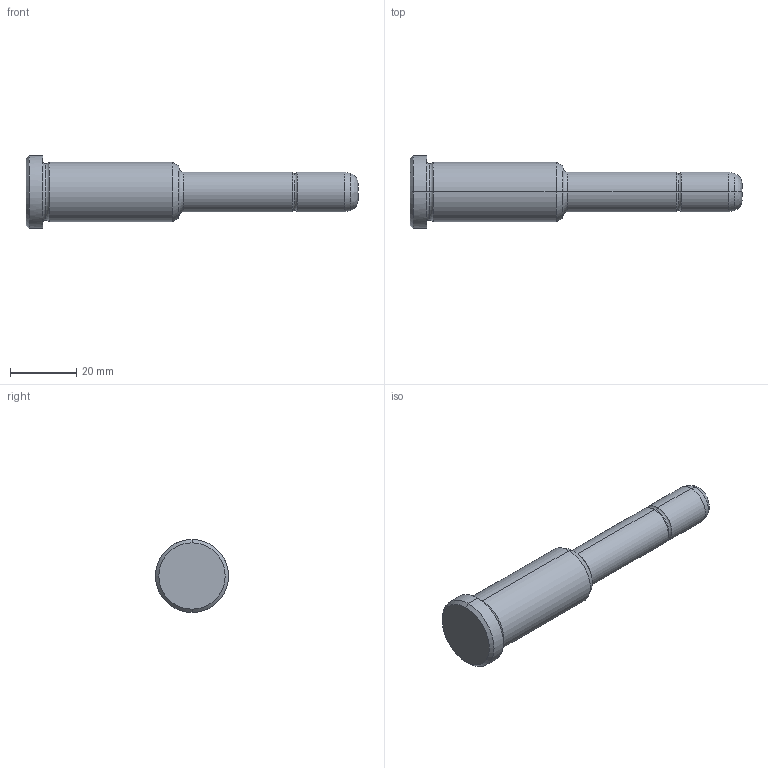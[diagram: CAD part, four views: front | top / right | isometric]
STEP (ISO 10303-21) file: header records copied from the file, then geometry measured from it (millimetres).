
FILE_DESCRIPTION(('CATIA V5 STEP Exchange'),'2;1');
FILE_NAME('C:\Users\Utente\Desktop\IO LAVORO\3D X SITO CF\X SITO\PLASTICA\351\351-12X46X100.stp','2021-08-17T13:18:25+00:00',('none'),('none'),'CATIA Version 5 Release 20 GA (IN-10)','CATIA V5 STEP AP203','none');
FILE_SCHEMA(('CONFIG_CONTROL_DESIGN'));
Length unit declared in the file: millimetre
Products named in the file (1): 351-12X46X100
Bounding box: 100 x 22 x 22 mm (x, y, z)
Volume: 18200 mm3; surface area: 5299.9 mm2
Topology: 1 solids, 1 shells, 30 faces, 86 edges, 60 vertices
Faces by surface type: torus 10, cylinder 8, cone 6, plane 4, bspline 2
Entity records: 1128 total; most frequent: CARTESIAN_POINT 343, ORIENTED_EDGE 172, DIRECTION 124, EDGE_CURVE 86, AXIS2_PLACEMENT_3D 83, VERTEX_POINT 60, CIRCLE 54, EDGE_LOOP 32
